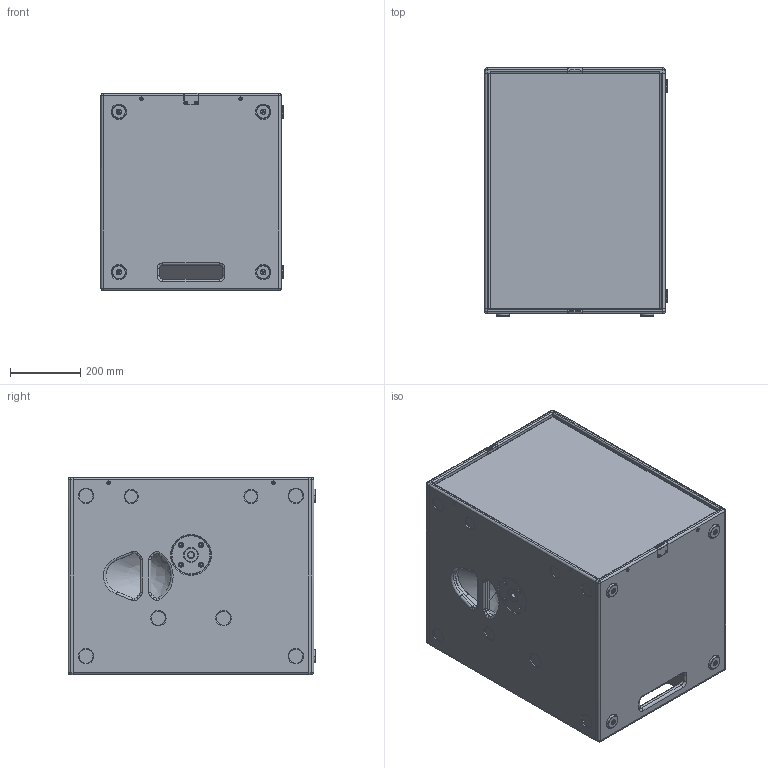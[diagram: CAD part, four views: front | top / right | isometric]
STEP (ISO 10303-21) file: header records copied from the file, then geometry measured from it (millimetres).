
FILE_DESCRIPTION (( 'STEP AP203' ), '1' );
FILE_NAME ('SEEBURG_K-Sub-1801.STEP', '2014-03-27T11:10:02', ( 'Michael Anter' ), ( 'SEEBURG acoustic line GmbH' ), 'SwSTEP 2.0', 'SolidWorks 2009', '' );
FILE_SCHEMA (( 'CONFIG_CONTROL_DESIGN' ));
Length unit declared in the file: millimetre
Products named in the file (20): SEEBURG_K-Sub-1801; K-Sub_III_Boden; K-Sub_III_Deckel; K-Sub_III_Seite-rechts; K-Sub_III_Seite-links; K-Sub-III_Tunnel; Griffschale_oval; Griffaufdopplung; Eckgriff_oben; Eckgriff_Abdeckung; Eckgriff_unten; Eckgriff_Stegaufdopplung; Eckgriff_Seitenteil; Alternative_K-Sub_III_Rückwand; gummifuss; m20_flansch; Befestigungsöse; K-Sub-1801_III_Schaum; K-Sub-III_Flansch-ASF; Platte_f黵_Passivversion
Assembly tree (34 placements, depth 3):
  SEEBURG_K-Sub-1801
    Griffaufdopplung  x2
    gummifuss  x8
    K-Sub_III_Boden
    K-Sub-III_Tunnel
    Platte_f黵_Passivversion
    m20_flansch  x2
    Eckgriff_unten
      Eckgriff_Stegaufdopplung
      Eckgriff_Seitenteil  x2
    Befestigungsöse  x2
    K-Sub_III_Deckel
    Alternative_K-Sub_III_Rückwand
    Griffschale_oval  x2
    Eckgriff_oben
      Eckgriff_Stegaufdopplung
      Eckgriff_Seitenteil  x2
      Eckgriff_Abdeckung
    K-Sub-III_Flansch-ASF
    K-Sub_III_Seite-links
    K-Sub_III_Seite-rechts
    K-Sub-1801_III_Schaum
Bounding box: 517.5 x 704 x 560 mm (x, y, z)
Volume: 25325920.3 mm3; surface area: 4607260.7 mm2
Topology: 33 solids, 33 shells, 947 faces, 2268 edges, 1410 vertices
Faces by surface type: cylinder 388, plane 287, cone 148, torus 92, bspline 28, sphere 4
Entity records: 30308 total; most frequent: CARTESIAN_POINT 9698, DIRECTION 4055, ORIENTED_EDGE 3582, EDGE_CURVE 1791, AXIS2_PLACEMENT_3D 1589, VERTEX_POINT 1115, EDGE_LOOP 900, LINE 877
